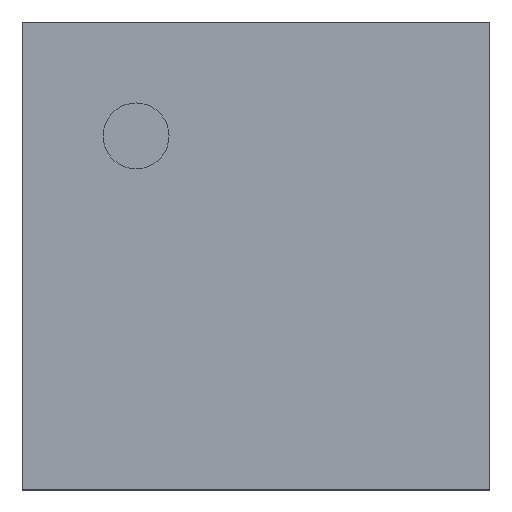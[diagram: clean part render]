
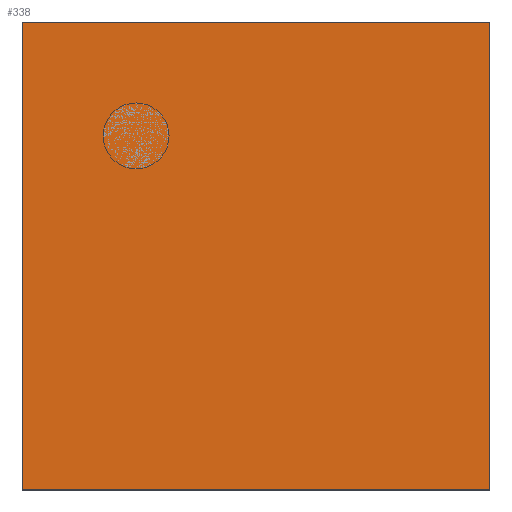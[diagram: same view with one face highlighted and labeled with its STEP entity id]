
A CAD part, top view. The second image highlights one B-rep face of the part: STEP entity #338.
In plain terms, the highlighted planar face has unit normal (0, 0, 1).
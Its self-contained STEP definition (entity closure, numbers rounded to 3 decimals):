
#24 = VERTEX_POINT('',#25);
#25 = CARTESIAN_POINT('',(-0.39,-0.39,0.5));
#32 = PLANE('',#33);
#33 = AXIS2_PLACEMENT_3D('',#34,#35,#36);
#34 = CARTESIAN_POINT('',(-0.39,-0.39,0.16));
#35 = DIRECTION('',(1.,0.,-0.));
#36 = DIRECTION('',(0.,0.,1.));
#44 = PLANE('',#45);
#45 = AXIS2_PLACEMENT_3D('',#46,#47,#48);
#46 = CARTESIAN_POINT('',(-0.39,-0.39,0.16));
#47 = DIRECTION('',(-0.,1.,0.));
#48 = DIRECTION('',(0.,0.,1.));
#85 = VERTEX_POINT('',#86);
#86 = CARTESIAN_POINT('',(-0.39,0.39,0.5));
#100 = PLANE('',#101);
#101 = AXIS2_PLACEMENT_3D('',#102,#103,#104);
#102 = CARTESIAN_POINT('',(-0.39,0.39,0.16));
#103 = DIRECTION('',(-0.,1.,0.));
#104 = DIRECTION('',(0.,0.,1.));
#112 = EDGE_CURVE('',#24,#85,#113,.T.);
#113 = SURFACE_CURVE('',#114,(#118,#125),.PCURVE_S1.);
#114 = LINE('',#115,#116);
#115 = CARTESIAN_POINT('',(-0.39,-0.39,0.5));
#116 = VECTOR('',#117,1.);
#117 = DIRECTION('',(-0.,1.,0.));
#118 = PCURVE('',#32,#119);
#119 = DEFINITIONAL_REPRESENTATION('',(#120),#124);
#120 = LINE('',#121,#122);
#121 = CARTESIAN_POINT('',(0.34,0.));
#122 = VECTOR('',#123,1.);
#123 = DIRECTION('',(0.,-1.));
#124 = ( GEOMETRIC_REPRESENTATION_CONTEXT(2) 
PARAMETRIC_REPRESENTATION_CONTEXT() REPRESENTATION_CONTEXT('2D SPACE',''
  ) );
#125 = PCURVE('',#126,#131);
#126 = PLANE('',#127);
#127 = AXIS2_PLACEMENT_3D('',#128,#129,#130);
#128 = CARTESIAN_POINT('',(-0.39,-0.39,0.5));
#129 = DIRECTION('',(0.,0.,1.));
#130 = DIRECTION('',(1.,0.,-0.));
#131 = DEFINITIONAL_REPRESENTATION('',(#132),#136);
#132 = LINE('',#133,#134);
#133 = CARTESIAN_POINT('',(0.,0.));
#134 = VECTOR('',#135,1.);
#135 = DIRECTION('',(0.,1.));
#136 = ( GEOMETRIC_REPRESENTATION_CONTEXT(2) 
PARAMETRIC_REPRESENTATION_CONTEXT() REPRESENTATION_CONTEXT('2D SPACE',''
  ) );
#144 = VERTEX_POINT('',#145);
#145 = CARTESIAN_POINT('',(0.39,-0.39,0.5));
#152 = PLANE('',#153);
#153 = AXIS2_PLACEMENT_3D('',#154,#155,#156);
#154 = CARTESIAN_POINT('',(0.39,-0.39,0.16));
#155 = DIRECTION('',(1.,0.,-0.));
#156 = DIRECTION('',(0.,0.,1.));
#195 = VERTEX_POINT('',#196);
#196 = CARTESIAN_POINT('',(0.39,0.39,0.5));
#217 = EDGE_CURVE('',#144,#195,#218,.T.);
#218 = SURFACE_CURVE('',#219,(#223,#230),.PCURVE_S1.);
#219 = LINE('',#220,#221);
#220 = CARTESIAN_POINT('',(0.39,-0.39,0.5));
#221 = VECTOR('',#222,1.);
#222 = DIRECTION('',(-0.,1.,0.));
#223 = PCURVE('',#152,#224);
#224 = DEFINITIONAL_REPRESENTATION('',(#225),#229);
#225 = LINE('',#226,#227);
#226 = CARTESIAN_POINT('',(0.34,0.));
#227 = VECTOR('',#228,1.);
#228 = DIRECTION('',(0.,-1.));
#229 = ( GEOMETRIC_REPRESENTATION_CONTEXT(2) 
PARAMETRIC_REPRESENTATION_CONTEXT() REPRESENTATION_CONTEXT('2D SPACE',''
  ) );
#230 = PCURVE('',#126,#231);
#231 = DEFINITIONAL_REPRESENTATION('',(#232),#236);
#232 = LINE('',#233,#234);
#233 = CARTESIAN_POINT('',(0.78,0.));
#234 = VECTOR('',#235,1.);
#235 = DIRECTION('',(0.,1.));
#236 = ( GEOMETRIC_REPRESENTATION_CONTEXT(2) 
PARAMETRIC_REPRESENTATION_CONTEXT() REPRESENTATION_CONTEXT('2D SPACE',''
  ) );
#263 = EDGE_CURVE('',#24,#144,#264,.T.);
#264 = SURFACE_CURVE('',#265,(#269,#276),.PCURVE_S1.);
#265 = LINE('',#266,#267);
#266 = CARTESIAN_POINT('',(-0.39,-0.39,0.5));
#267 = VECTOR('',#268,1.);
#268 = DIRECTION('',(1.,0.,-0.));
#269 = PCURVE('',#44,#270);
#270 = DEFINITIONAL_REPRESENTATION('',(#271),#275);
#271 = LINE('',#272,#273);
#272 = CARTESIAN_POINT('',(0.34,0.));
#273 = VECTOR('',#274,1.);
#274 = DIRECTION('',(0.,1.));
#275 = ( GEOMETRIC_REPRESENTATION_CONTEXT(2) 
PARAMETRIC_REPRESENTATION_CONTEXT() REPRESENTATION_CONTEXT('2D SPACE',''
  ) );
#276 = PCURVE('',#126,#277);
#277 = DEFINITIONAL_REPRESENTATION('',(#278),#282);
#278 = LINE('',#279,#280);
#279 = CARTESIAN_POINT('',(0.,0.));
#280 = VECTOR('',#281,1.);
#281 = DIRECTION('',(1.,0.));
#282 = ( GEOMETRIC_REPRESENTATION_CONTEXT(2) 
PARAMETRIC_REPRESENTATION_CONTEXT() REPRESENTATION_CONTEXT('2D SPACE',''
  ) );
#310 = EDGE_CURVE('',#85,#195,#311,.T.);
#311 = SURFACE_CURVE('',#312,(#316,#323),.PCURVE_S1.);
#312 = LINE('',#313,#314);
#313 = CARTESIAN_POINT('',(-0.39,0.39,0.5));
#314 = VECTOR('',#315,1.);
#315 = DIRECTION('',(1.,0.,-0.));
#316 = PCURVE('',#100,#317);
#317 = DEFINITIONAL_REPRESENTATION('',(#318),#322);
#318 = LINE('',#319,#320);
#319 = CARTESIAN_POINT('',(0.34,0.));
#320 = VECTOR('',#321,1.);
#321 = DIRECTION('',(0.,1.));
#322 = ( GEOMETRIC_REPRESENTATION_CONTEXT(2) 
PARAMETRIC_REPRESENTATION_CONTEXT() REPRESENTATION_CONTEXT('2D SPACE',''
  ) );
#323 = PCURVE('',#126,#324);
#324 = DEFINITIONAL_REPRESENTATION('',(#325),#329);
#325 = LINE('',#326,#327);
#326 = CARTESIAN_POINT('',(0.,0.78));
#327 = VECTOR('',#328,1.);
#328 = DIRECTION('',(1.,0.));
#329 = ( GEOMETRIC_REPRESENTATION_CONTEXT(2) 
PARAMETRIC_REPRESENTATION_CONTEXT() REPRESENTATION_CONTEXT('2D SPACE',''
  ) );
#338 = ADVANCED_FACE('',(#339),#126,.T.);
#339 = FACE_BOUND('',#340,.T.);
#340 = EDGE_LOOP('',(#341,#342,#343,#344));
#341 = ORIENTED_EDGE('',*,*,#112,.F.);
#342 = ORIENTED_EDGE('',*,*,#263,.T.);
#343 = ORIENTED_EDGE('',*,*,#217,.T.);
#344 = ORIENTED_EDGE('',*,*,#310,.F.);
